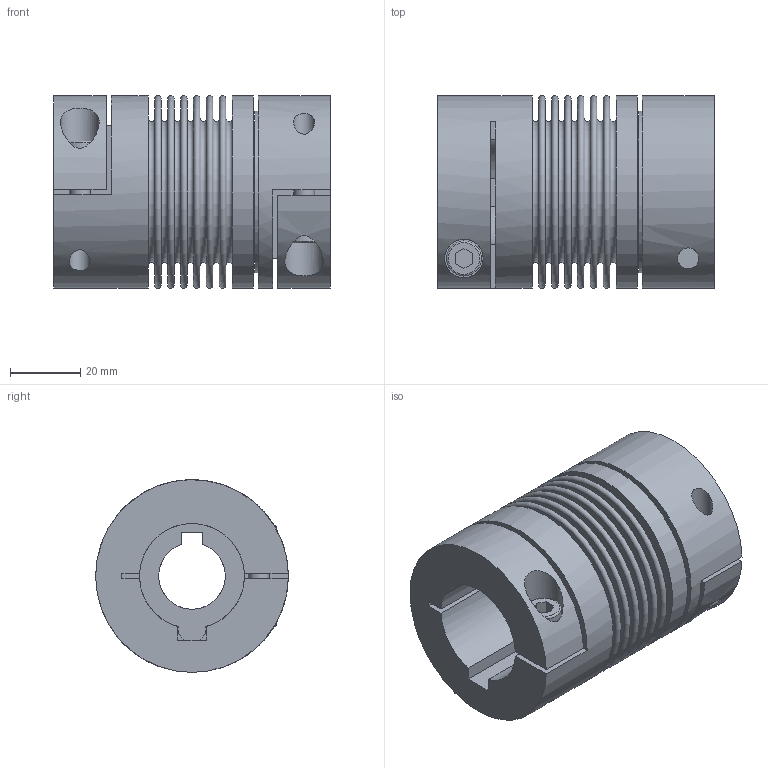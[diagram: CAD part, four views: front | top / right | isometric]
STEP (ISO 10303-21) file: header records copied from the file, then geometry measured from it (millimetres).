
FILE_DESCRIPTION(/* description */ ('STEP AP214'),/* implementation_level */ '2;1');
FILE_NAME(/* name */ 'C:\Diequa Files\DieQua Coupling\BCB\STP\BCB.30.79.#.#.stp',/* time_stamp */ '2018-11-26T10:41:15-06:00',/* author */ ('DiequaCAD'),/* organization */ (''),/* preprocessor_version */ 'ST-DEVELOPER v17.2',/* originating_system */ 'Autodesk Inventor 2019',/* authorisation */ ' ');
FILE_SCHEMA (('AUTOMOTIVE_DESIGN { 1 0 10303 214 3 1 1 }'));
Length unit declared in the file: millimetre
Products named in the file (3): BCB.30.79.#.#; 2018_11_09__17-50-43-971; 2018_11_09__17-50-43-971_1
Assembly tree (2 placements, depth 2):
  BCB.30.79.#.#
    2018_11_09__17-50-43-971
    2018_11_09__17-50-43-971_1
Bounding box: 79 x 55 x 55 mm (x, y, z)
Volume: 114648.2 mm3; surface area: 50572.2 mm2
Topology: 2 solids, 2 shells, 134 faces, 339 edges, 233 vertices
Faces by surface type: plane 72, cone 24, cylinder 23, torus 15
Full cylindrical faces by diameter (mm): 6 x4, 10 x2, 11 x2, 38 x1, 46 x2, 55 x3
Entity records: 4504 total; most frequent: CARTESIAN_POINT 983, DIRECTION 769, ORIENTED_EDGE 678, EDGE_CURVE 339, AXIS2_PLACEMENT_3D 321, VERTEX_POINT 233, CIRCLE 182, EDGE_LOOP 166
